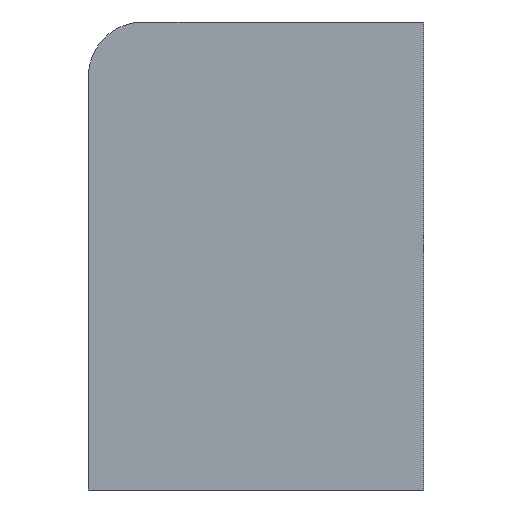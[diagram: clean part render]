
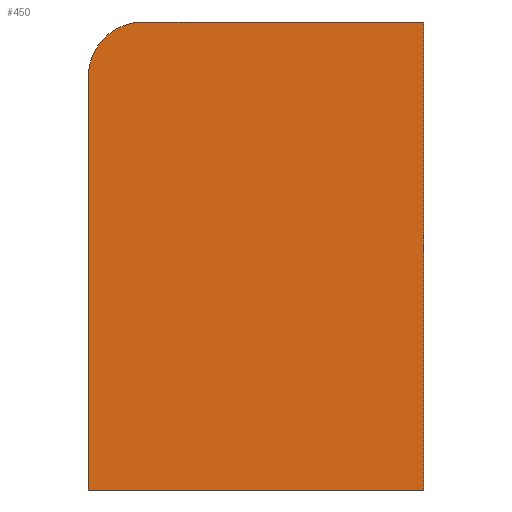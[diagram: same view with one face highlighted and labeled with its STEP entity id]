
A CAD part, left-side view. The second image highlights one B-rep face of the part: STEP entity #450.
In plain terms, the highlighted planar face has unit normal (-1, 0, 0).
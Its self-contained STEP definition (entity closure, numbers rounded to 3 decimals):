
#233=CARTESIAN_POINT('Vertex',(0.,0.,120.)) ;
#236=CARTESIAN_POINT('Line Origine',(0.,0.,60.)) ;
#240=CARTESIAN_POINT('Vertex',(0.,0.,0.)) ;
#329=CARTESIAN_POINT('Vertex',(0.,86.,0.)) ;
#332=CARTESIAN_POINT('Line Origine',(0.,86.,53.)) ;
#336=CARTESIAN_POINT('Vertex',(0.,86.,106.)) ;
#396=CARTESIAN_POINT('Line Origine',(0.,43.,0.)) ;
#414=CARTESIAN_POINT('Axis2P3D Location',(0.,72.,106.)) ;
#418=CARTESIAN_POINT('Vertex',(0.,72.,120.)) ;
#433=CARTESIAN_POINT('Axis2P3D Location',(0.,86.,0.)) ;
#438=CARTESIAN_POINT('Line Origine',(0.,36.,120.)) ;
#237=DIRECTION('Vector Direction',(0.,0.,1.)) ;
#333=DIRECTION('Vector Direction',(0.,0.,1.)) ;
#397=DIRECTION('Vector Direction',(0.,-1.,0.)) ;
#415=DIRECTION('Axis2P3D Direction',(-1.,0.,0.)) ;
#434=DIRECTION('Axis2P3D Direction',(-1.,0.,0.)) ;
#435=DIRECTION('Axis2P3D XDirection',(0.,-1.,0.)) ;
#439=DIRECTION('Vector Direction',(0.,1.,0.)) ;
#416=AXIS2_PLACEMENT_3D('Circle Axis2P3D',#414,#415,$) ;
#436=AXIS2_PLACEMENT_3D('Plane Axis2P3D',#433,#434,#435) ;
#444=ORIENTED_EDGE('',*,*,#242,.T.) ;
#445=ORIENTED_EDGE('',*,*,#442,.T.) ;
#446=ORIENTED_EDGE('',*,*,#420,.T.) ;
#447=ORIENTED_EDGE('',*,*,#338,.F.) ;
#448=ORIENTED_EDGE('',*,*,#400,.T.) ;
#238=VECTOR('Line Direction',#237,1.) ;
#334=VECTOR('Line Direction',#333,1.) ;
#398=VECTOR('Line Direction',#397,1.) ;
#440=VECTOR('Line Direction',#439,1.) ;
#450=ADVANCED_FACE('PartBody',(#449),#437,.T.) ;
#417=CIRCLE('generated circle',#416,14.) ;
#242=EDGE_CURVE('',#241,#234,#239,.T.) ;
#338=EDGE_CURVE('',#330,#337,#335,.T.) ;
#400=EDGE_CURVE('',#330,#241,#399,.T.) ;
#420=EDGE_CURVE('',#419,#337,#417,.T.) ;
#442=EDGE_CURVE('',#234,#419,#441,.T.) ;
#443=EDGE_LOOP('',(#444,#445,#446,#447,#448)) ;
#449=FACE_OUTER_BOUND('',#443,.T.) ;
#239=LINE('Line',#236,#238) ;
#335=LINE('Line',#332,#334) ;
#399=LINE('Line',#396,#398) ;
#441=LINE('Line',#438,#440) ;
#437=PLANE('',#436) ;
#234=VERTEX_POINT('',#233) ;
#241=VERTEX_POINT('',#240) ;
#330=VERTEX_POINT('',#329) ;
#337=VERTEX_POINT('',#336) ;
#419=VERTEX_POINT('',#418) ;
